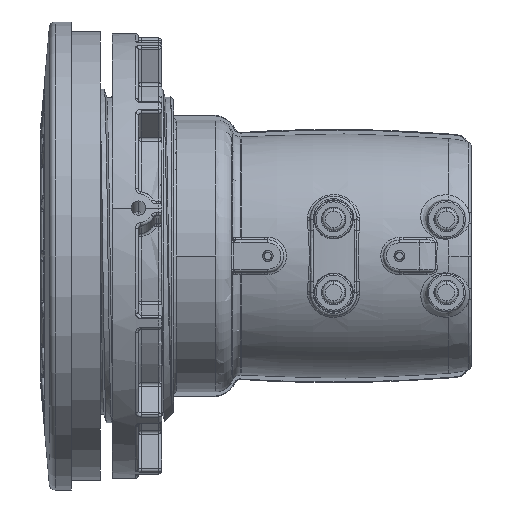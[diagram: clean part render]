
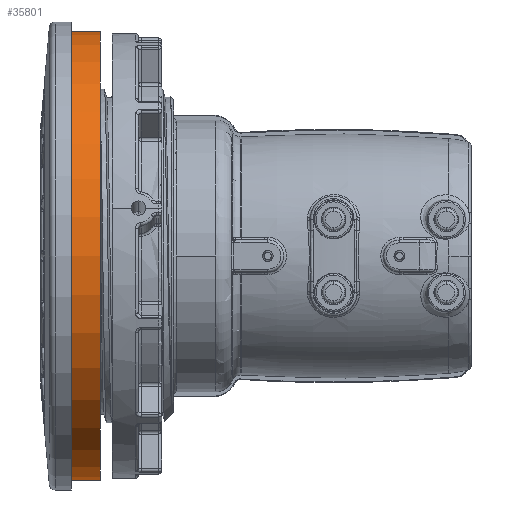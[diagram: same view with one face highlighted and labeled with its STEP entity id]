
A CAD part, left-side view. The second image highlights one B-rep face of the part: STEP entity #35801.
In plain terms, the highlighted cylindrical face has radius 76.75 mm (diameter 153.5 mm), a partial arc.
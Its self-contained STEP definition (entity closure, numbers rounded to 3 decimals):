
#5860 = AXIS2_PLACEMENT_3D ( 'NONE', #5866, #5926, #5922 ) ;
#5866 = CARTESIAN_POINT ( 'NONE',  ( 0., 57.391, 0. ) ) ;
#5917 = CYLINDRICAL_SURFACE ( 'NONE', #5860, 76.75 ) ;
#5922 = DIRECTION ( 'NONE',  ( 0., 0., -1. ) ) ;
#5926 = DIRECTION ( 'NONE',  ( 0., -1., 0. ) ) ;
#6130 = FACE_OUTER_BOUND ( 'NONE', #26782, .T. ) ;
#6165 = CIRCLE ( 'NONE', #6202, 76.75 ) ;
#6199 = DIRECTION ( 'NONE',  ( 0., 0., -1. ) ) ;
#6200 = DIRECTION ( 'NONE',  ( 0., -1., 0. ) ) ;
#6201 = CARTESIAN_POINT ( 'NONE',  ( 0., 57.391, 0. ) ) ;
#6202 = AXIS2_PLACEMENT_3D ( 'NONE', #6201, #6200, #6199 ) ;
#22749 = DIRECTION ( 'NONE',  ( 0., 0., 1. ) ) ;
#22750 = DIRECTION ( 'NONE',  ( 0., -1., 0. ) ) ;
#22751 = CARTESIAN_POINT ( 'NONE',  ( 0., 67.391, 0. ) ) ;
#22758 = CIRCLE ( 'NONE', #22777, 76.75 ) ;
#22777 = AXIS2_PLACEMENT_3D ( 'NONE', #22751, #22750, #22749 ) ;
#26782 = EDGE_LOOP ( 'NONE', ( #35241, #35698, #35826, #35721 ) ) ;
#29271 = CARTESIAN_POINT ( 'NONE',  ( 0., 67.391, -76.75 ) ) ;
#29698 = CARTESIAN_POINT ( 'NONE',  ( 0., 67.391, 76.75 ) ) ;
#29711 = DIRECTION ( 'NONE',  ( 0., -1., 0. ) ) ;
#29712 = VECTOR ( 'NONE', #29711, 1000. ) ;
#29713 = CARTESIAN_POINT ( 'NONE',  ( 0., 57.391, -76.75 ) ) ;
#29720 = LINE ( 'NONE', #29713, #29712 ) ;
#29744 = DIRECTION ( 'NONE',  ( 0., -1., 0. ) ) ;
#29745 = VECTOR ( 'NONE', #29744, 1000. ) ;
#29746 = CARTESIAN_POINT ( 'NONE',  ( 0., 57.391, 76.75 ) ) ;
#29748 = LINE ( 'NONE', #29746, #29745 ) ;
#29750 = CARTESIAN_POINT ( 'NONE',  ( 0., 57.391, 76.75 ) ) ;
#29761 = CARTESIAN_POINT ( 'NONE',  ( 0., 57.391, -76.75 ) ) ;
#35241 = ORIENTED_EDGE ( 'NONE', *, *, #62661, .F. ) ;
#35698 = ORIENTED_EDGE ( 'NONE', *, *, #50457, .T. ) ;
#35721 = ORIENTED_EDGE ( 'NONE', *, *, #35850, .F. ) ;
#35801 = ADVANCED_FACE ( 'NONE', ( #6130 ), #5917, .T. ) ;
#35826 = ORIENTED_EDGE ( 'NONE', *, *, #62651, .T. ) ;
#35850 = EDGE_CURVE ( 'NONE', #62663, #62660, #6165, .T. ) ;
#50457 = EDGE_CURVE ( 'NONE', #62658, #62657, #22758, .T. ) ;
#62651 = EDGE_CURVE ( 'NONE', #62657, #62660, #29720, .T. ) ;
#62657 = VERTEX_POINT ( 'NONE', #29271 ) ;
#62658 = VERTEX_POINT ( 'NONE', #29698 ) ;
#62660 = VERTEX_POINT ( 'NONE', #29761 ) ;
#62661 = EDGE_CURVE ( 'NONE', #62658, #62663, #29748, .T. ) ;
#62663 = VERTEX_POINT ( 'NONE', #29750 ) ;
